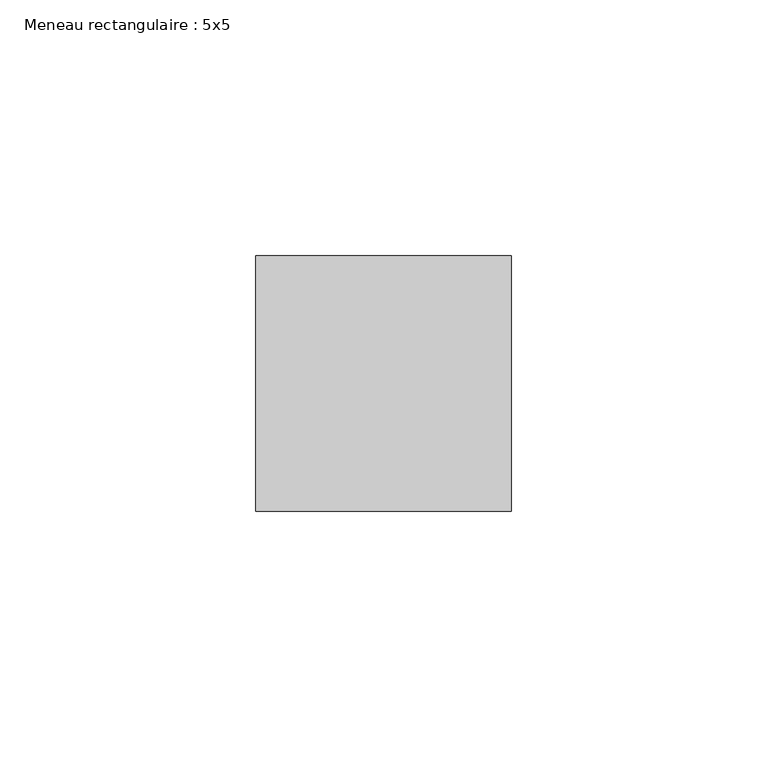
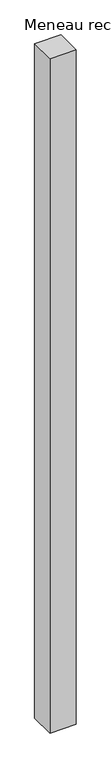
"""IFC4 building model written with IfcOpenShell, lengths in millimetres: member geometry, Meneau rectangulaire : 5x5."""

from ifc_helpers import new_model, si_unit, frame, origin, place, context, project, spatial, polyline, outline, extrude, source, transform, mapped, element, save


def meneau_rectangulaire_5x5_3dc1e20f(model_context):
    return source(origin(), model_context, "Body", "SweptSolid", [
        extrude(outline(polyline([(0.0, 25.0), (0.0, -25.0), (-50.0, -25.0), (-50.0, 25.0), (0.0, 25.0)])), frame((0.0, 0.0, -1363.8333333), z_axis=(0.0, 0.0, 1.0), x_axis=(1.0, 0.0, 0.0)), (0.0, 0.0, 1.0), 1363.8333333),
    ])


if __name__ == "__main__":
    model = new_model("IFC4")
    model_context = context("Model", 3, world=origin())
    ifc_project = project(units=[si_unit("LENGTHUNIT", "METRE", prefix="MILLI")], contexts=[model_context])
    site = spatial("IfcSite", under=ifc_project)
    building = spatial("IfcBuilding", under=site)
    placement = place(None, origin())
    meneau_rectangulaire_5x5_shape = meneau_rectangulaire_5x5_3dc1e20f(model_context)
    element("IfcMember", 1, ObjectType="Meneau rectangulaire : 5x5", at=placement, inside=building, context=model_context, shape_type="MappedRepresentation", body=[
        mapped(meneau_rectangulaire_5x5_shape, transform((0.0, 0.0, 0.0), x_axis=(1.0, 0.0, 0.0), y_axis=(0.0, 1.0, 0.0), z_axis=(0.0, 0.0, 1.0))),
    ])
    save(model, "model.ifc")
